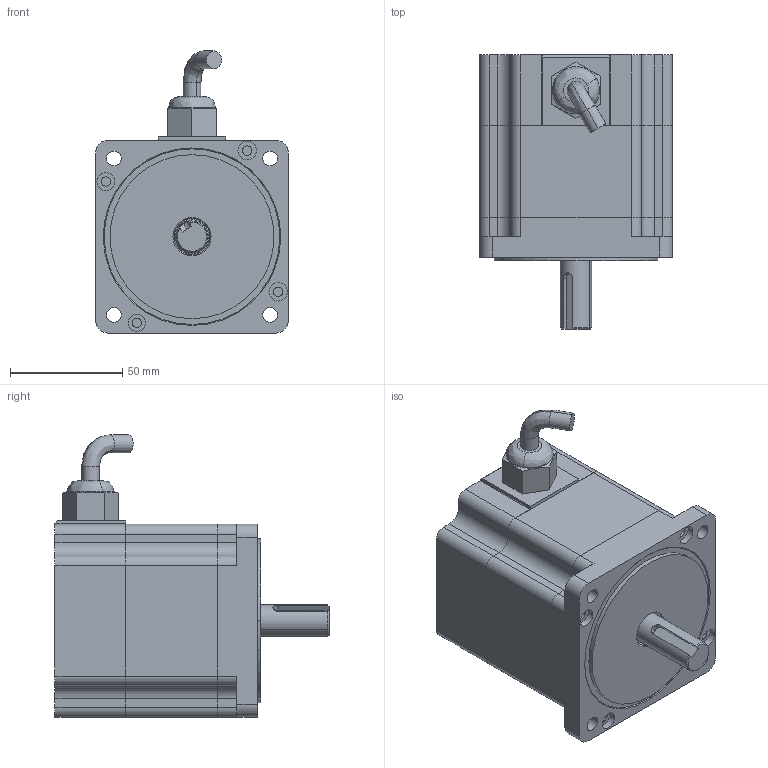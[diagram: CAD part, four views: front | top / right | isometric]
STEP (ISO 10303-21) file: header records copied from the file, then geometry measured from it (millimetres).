
FILE_DESCRIPTION (( 'STEP AP203' ), '1' );
FILE_NAME ('86CM45-FS.STEP', '2021-04-21T08:01:00', ( 'Owner' ), ( 'Organization' ), 'SwSTEP 2.0', 'SolidWorks 2018', '' );
FILE_SCHEMA (( 'CONFIG_CONTROL_DESIGN' ));
Length unit declared in the file: millimetre
Products named in the file (6): 11-880; 86H41; 16-803; P9諉芛; 16-804; 86CM45-FS
Assembly tree (5 placements, depth 2):
  86CM45-FS
    86H41
    16-804
    16-803
    11-880
    P9諉芛
Bounding box: 85.85 x 122 x 125.62 mm (x, y, z)
Volume: 376874.1 mm3; surface area: 118357.7 mm2
Topology: 5 solids, 14 shells, 421 faces, 1034 edges, 663 vertices
Faces by surface type: cylinder 212, plane 139, bspline 55, cone 15
Entity records: 16634 total; most frequent: CARTESIAN_POINT 6147, DIRECTION 2075, ORIENTED_EDGE 2068, EDGE_CURVE 1034, AXIS2_PLACEMENT_3D 795, VERTEX_POINT 663, VECTOR 485, LINE 485
